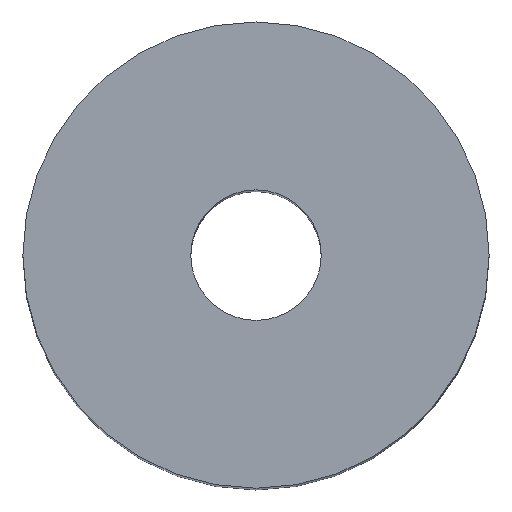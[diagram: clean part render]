
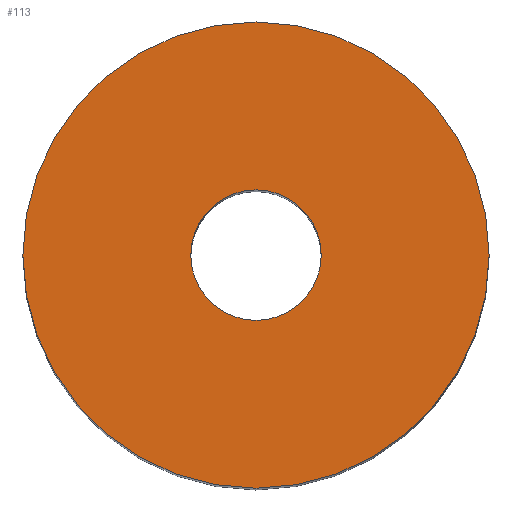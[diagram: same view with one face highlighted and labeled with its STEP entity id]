
A CAD part, top view. The second image highlights one B-rep face of the part: STEP entity #113.
In plain terms, the highlighted planar face has unit normal (0, 0, 1).
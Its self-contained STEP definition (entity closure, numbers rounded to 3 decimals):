
#113=ADVANCED_FACE('',(#121,#122),#119,.T.);
#119=PLANE('',#190);
#121=FACE_BOUND('',#125,.T.);
#122=FACE_BOUND('',#126,.T.);
#125=EDGE_LOOP('',(#133,#134));
#126=EDGE_LOOP('',(#135,#136));
#133=ORIENTED_EDGE('',*,*,#165,.T.);
#134=ORIENTED_EDGE('',*,*,#166,.T.);
#135=ORIENTED_EDGE('',*,*,#167,.F.);
#136=ORIENTED_EDGE('',*,*,#168,.F.);
#157=VERTEX_POINT('',#236);
#158=VERTEX_POINT('',#237);
#159=VERTEX_POINT('',#240);
#160=VERTEX_POINT('',#241);
#165=EDGE_CURVE('',#157,#158,#177,.T.);
#166=EDGE_CURVE('',#158,#157,#178,.T.);
#167=EDGE_CURVE('',#159,#160,#179,.T.);
#168=EDGE_CURVE('',#160,#159,#180,.T.);
#177=CIRCLE('',#186,25.);
#178=CIRCLE('',#187,25.);
#179=CIRCLE('',#188,7.);
#180=CIRCLE('',#189,7.);
#186=AXIS2_PLACEMENT_3D('',#235,#202,#203);
#187=AXIS2_PLACEMENT_3D('',#238,#204,#205);
#188=AXIS2_PLACEMENT_3D('',#239,#206,#207);
#189=AXIS2_PLACEMENT_3D('',#242,#208,#209);
#190=AXIS2_PLACEMENT_3D('',#243,#210,#211);
#202=DIRECTION('',(0.,0.,1.));
#203=DIRECTION('',(0.,1.,0.));
#204=DIRECTION('',(0.,0.,1.));
#205=DIRECTION('',(0.,-1.,0.));
#206=DIRECTION('',(0.,0.,1.));
#207=DIRECTION('',(0.,-1.,0.));
#208=DIRECTION('',(0.,0.,1.));
#209=DIRECTION('',(0.,1.,0.));
#210=DIRECTION('',(0.,0.,1.));
#211=DIRECTION('',(0.,1.,0.));
#235=CARTESIAN_POINT('',(0.,0.,110.));
#236=CARTESIAN_POINT('',(-25.,0.,110.));
#237=CARTESIAN_POINT('',(25.,0.,110.));
#238=CARTESIAN_POINT('',(0.,0.,110.));
#239=CARTESIAN_POINT('',(0.,0.,110.));
#240=CARTESIAN_POINT('',(7.,0.,110.));
#241=CARTESIAN_POINT('',(-7.,0.,110.));
#242=CARTESIAN_POINT('',(0.,0.,110.));
#243=CARTESIAN_POINT('',(0.,0.,110.));
